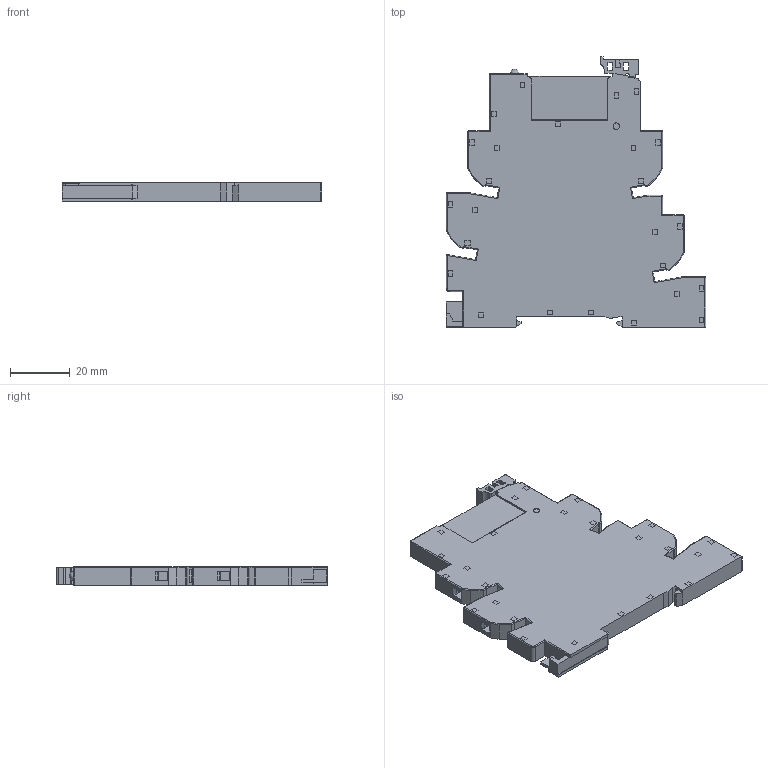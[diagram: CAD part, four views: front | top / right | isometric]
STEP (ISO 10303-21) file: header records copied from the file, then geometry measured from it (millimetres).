
FILE_DESCRIPTION(('STEP AP214'),'2;1');
FILE_NAME('3910=9361+3481.stp','2010-10-02T08:49:56',(''),(''),'2007.1.106','THINKDESIGN','');
FILE_SCHEMA(('AUTOMOTIVE_DESIGN'));
Products named in the file (1): None
Bounding box: 87 x 90.7 x 6.2 mm (x, y, z)
Surface area: 17229.7 mm2 (no closed solid volume)
Topology: 0 solids, 0 shells, 734 faces, 4274 edges, 4258 vertices
Faces by surface type: plane 577, cylinder 133, bspline 24
Full cylindrical faces by diameter (mm): 1.5 x5, 2.2 x2, 3.9 x5, 4.3 x5
Entity records: 42120 total; most frequent: CARTESIAN_POINT 10866, DIRECTION 5553, COMPOSITE_CURVE_SEGMENT 4260, TRIMMED_CURVE 3900, VECTOR 3667, LINE 3667, AXIS2_PLACEMENT_3D 943, OUTER_BOUNDARY_CURVE 734
